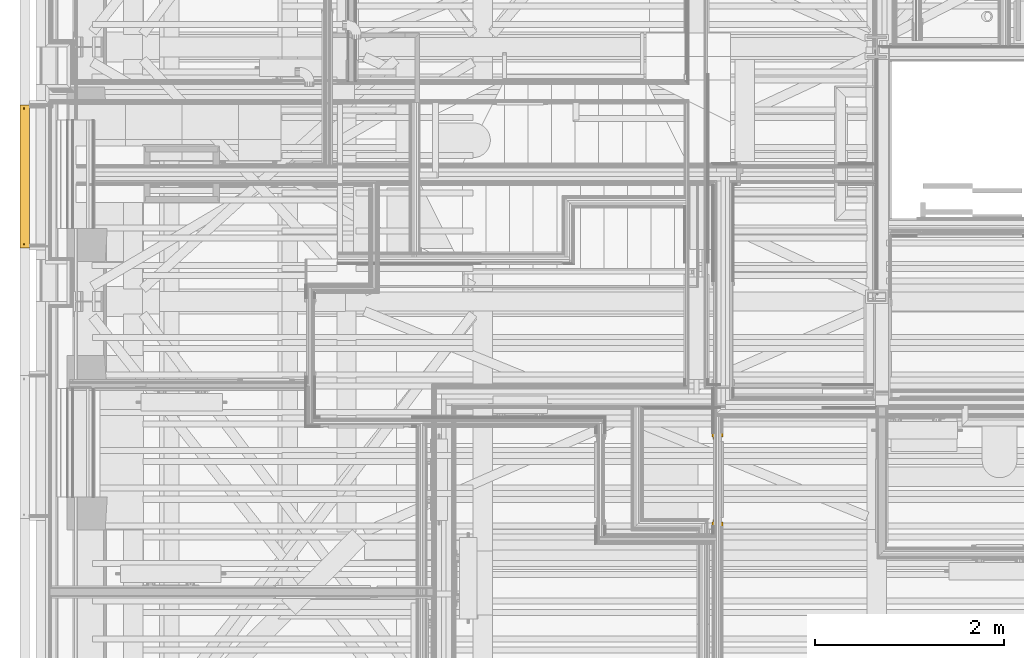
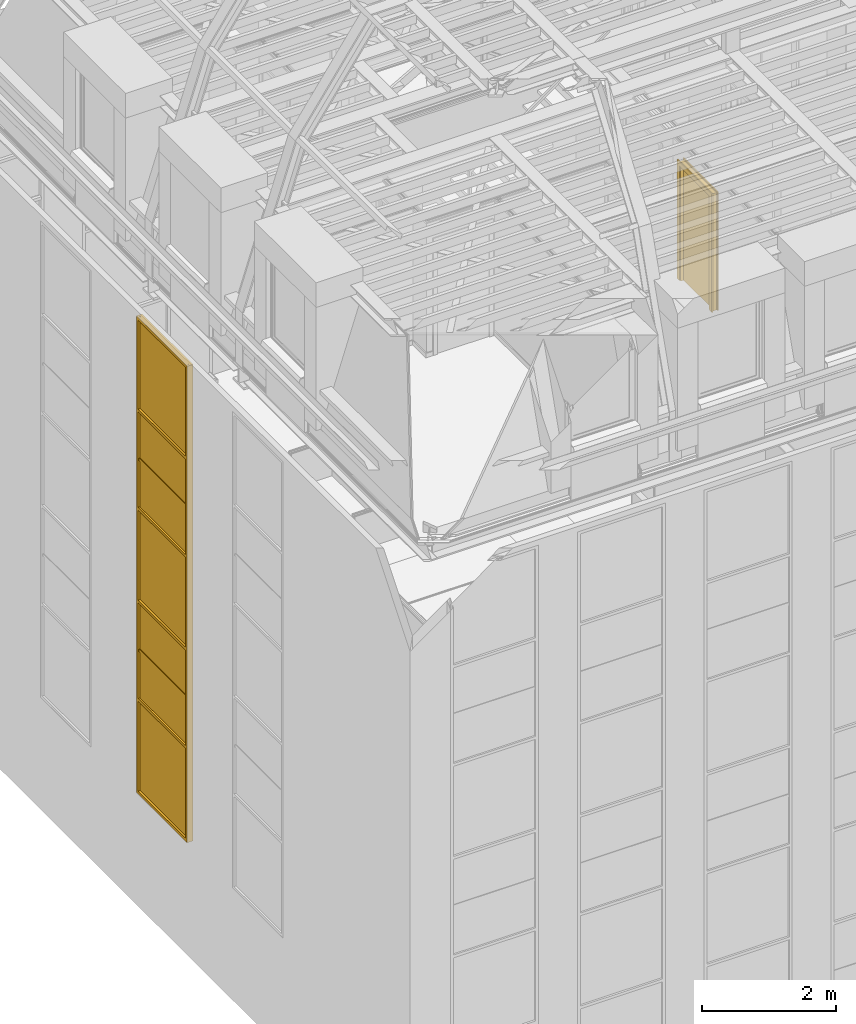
# One storey, part 112 of 183: 1 curtain wall, 1 door.
"""IFC2X3 building model written with IfcOpenShell, lengths in metres."""

from ifc_helpers import new_model, entity, si_unit, converted_unit, derived_unit, money_unit, direction, frame, origin_with_axes, place, context, subcontext, project, spatial, faceted_brep, material, type_object, element, save


model = new_model("IFC2X3")

# Units and contexts
model_context = context("Model", 3, precision=1e-05, world=origin_with_axes(), true_north=direction((0.0, 1.0)))
body_context = subcontext(model_context, "Body", "Model", "MODEL_VIEW", scale=1.0)
ifc_project = project(units=[si_unit("LENGTHUNIT", "METRE"), si_unit("AREAUNIT", "SQUARE_METRE"), si_unit("VOLUMEUNIT", "CUBIC_METRE"), si_unit("ABSORBEDDOSEUNIT", "GRAY"), si_unit("AMOUNTOFSUBSTANCEUNIT", "MOLE"), si_unit("DOSEEQUIVALENTUNIT", "SIEVERT"), si_unit("ELECTRICCAPACITANCEUNIT", "FARAD"), si_unit("ELECTRICCHARGEUNIT", "COULOMB"), si_unit("ELECTRICCONDUCTANCEUNIT", "SIEMENS"), si_unit("ELECTRICCURRENTUNIT", "AMPERE"), si_unit("ELECTRICRESISTANCEUNIT", "OHM"), si_unit("ELECTRICVOLTAGEUNIT", "VOLT"), si_unit("ENERGYUNIT", "JOULE"), si_unit("FORCEUNIT", "NEWTON"), si_unit("FREQUENCYUNIT", "HERTZ"), si_unit("ILLUMINANCEUNIT", "LUX"), si_unit("INDUCTANCEUNIT", "HENRY"), si_unit("LUMINOUSFLUXUNIT", "LUMEN"), si_unit("LUMINOUSINTENSITYUNIT", "CANDELA"), si_unit("MAGNETICFLUXDENSITYUNIT", "TESLA"), si_unit("MAGNETICFLUXUNIT", "WEBER"), si_unit("MASSUNIT", "GRAM"), converted_unit("PLANEANGLEUNIT", "degree", entity("IfcReal", 0.0174532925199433), si_unit("PLANEANGLEUNIT", "RADIAN"), dimensions=[0, 0, 0, 0, 0, 0, 0]), si_unit("POWERUNIT", "WATT"), si_unit("PRESSUREUNIT", "PASCAL"), si_unit("RADIOACTIVITYUNIT", "BECQUEREL"), si_unit("SOLIDANGLEUNIT", "STERADIAN"), si_unit("THERMODYNAMICTEMPERATUREUNIT", "KELVIN"), si_unit("TIMEUNIT", "SECOND"), derived_unit("ACCELERATIONUNIT", [(si_unit("LENGTHUNIT", "METRE"), 1), (si_unit("TIMEUNIT", "SECOND"), -2)]), derived_unit("ANGULARVELOCITYUNIT", [(converted_unit("PLANEANGLEUNIT", "degree", entity("IfcReal", 0.0174532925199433), si_unit("PLANEANGLEUNIT", "RADIAN"), dimensions=[0, 0, 0, 0, 0, 0, 0]), 1), (si_unit("TIMEUNIT", "SECOND"), -1)]), derived_unit("CURVATUREUNIT", [(converted_unit("PLANEANGLEUNIT", "degree", entity("IfcReal", 0.0174532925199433), si_unit("PLANEANGLEUNIT", "RADIAN"), dimensions=[0, 0, 0, 0, 0, 0, 0]), 1), (si_unit("LENGTHUNIT", "METRE"), -1)]), derived_unit("DYNAMICVISCOSITYUNIT", [(si_unit("PRESSUREUNIT", "PASCAL"), 1), (si_unit("TIMEUNIT", "SECOND"), 1)]), derived_unit("HEATFLUXDENSITYUNIT", [(si_unit("POWERUNIT", "WATT"), 1), (si_unit("LENGTHUNIT", "METRE"), -2)]), derived_unit("HEATINGVALUEUNIT", [(si_unit("ENERGYUNIT", "JOULE"), 1), (si_unit("MASSUNIT", "GRAM"), -1)]), derived_unit("INTEGERCOUNTRATEUNIT", [(si_unit("TIMEUNIT", "SECOND"), -1)]), derived_unit("IONCONCENTRATIONUNIT", [(si_unit("MASSUNIT", "GRAM"), 1), (si_unit("VOLUMEUNIT", "CUBIC_METRE"), -1)]), derived_unit("ISOTHERMALMOISTURECAPACITYUNIT", [(si_unit("VOLUMEUNIT", "CUBIC_METRE"), 1), (si_unit("MASSUNIT", "GRAM"), -1)]), derived_unit("KINEMATICVISCOSITYUNIT", [(si_unit("AREAUNIT", "SQUARE_METRE"), 1), (si_unit("TIMEUNIT", "SECOND"), -1)]), derived_unit("LINEARFORCEUNIT", [(si_unit("FORCEUNIT", "NEWTON"), 1), (si_unit("LENGTHUNIT", "METRE"), -1)]), derived_unit("LINEARMOMENTUNIT", [(si_unit("FORCEUNIT", "NEWTON"), 1), (si_unit("LENGTHUNIT", "METRE"), -1)]), derived_unit("LINEARSTIFFNESSUNIT", [(si_unit("FORCEUNIT", "NEWTON"), 1), (si_unit("LENGTHUNIT", "METRE"), -1)]), derived_unit("LINEARVELOCITYUNIT", [(si_unit("LENGTHUNIT", "METRE"), 1), (si_unit("TIMEUNIT", "SECOND"), -1)]), derived_unit("LUMINOUSINTENSITYDISTRIBUTIONUNIT", [(si_unit("LUMINOUSINTENSITYUNIT", "CANDELA"), 1), (si_unit("LUMINOUSFLUXUNIT", "LUMEN"), -1)]), derived_unit("MASSDENSITYUNIT", [(si_unit("MASSUNIT", "GRAM"), 1), (si_unit("VOLUMEUNIT", "CUBIC_METRE"), -1)]), derived_unit("MASSFLOWRATEUNIT", [(si_unit("MASSUNIT", "GRAM"), 1), (si_unit("TIMEUNIT", "SECOND"), -1)]), derived_unit("MASSPERLENGTHUNIT", [(si_unit("MASSUNIT", "GRAM"), 1), (si_unit("LENGTHUNIT", "METRE"), -1)]), derived_unit("MODULUSOFELASTICITYUNIT", [(si_unit("FORCEUNIT", "NEWTON"), 1), (si_unit("AREAUNIT", "SQUARE_METRE"), -1)]), derived_unit("MODULUSOFLINEARSUBGRADEREACTIONUNIT", [(si_unit("FORCEUNIT", "NEWTON"), 1), (si_unit("LENGTHUNIT", "METRE"), -2)]), derived_unit("MODULUSOFROTATIONALSUBGRADEREACTIONUNIT", [(si_unit("FORCEUNIT", "NEWTON"), 1), (si_unit("LENGTHUNIT", "METRE"), 1)]), derived_unit("MODULUSOFSUBGRADEREACTIONUNIT", [(si_unit("FORCEUNIT", "NEWTON"), 1), (si_unit("VOLUMEUNIT", "CUBIC_METRE"), -1)]), derived_unit("MOISTUREDIFFUSIVITYUNIT", [(si_unit("VOLUMEUNIT", "CUBIC_METRE"), 1), (si_unit("TIMEUNIT", "SECOND"), -1)]), derived_unit("MOLECULARWEIGHTUNIT", [(si_unit("MASSUNIT", "GRAM"), 1), (si_unit("AMOUNTOFSUBSTANCEUNIT", "MOLE"), -1)]), derived_unit("PLANARFORCEUNIT", [(si_unit("FORCEUNIT", "NEWTON"), 1), (si_unit("LENGTHUNIT", "METRE"), -2)]), derived_unit("ROTATIONALFREQUENCYUNIT", [(si_unit("TIMEUNIT", "SECOND"), -1)]), derived_unit("ROTATIONALMASSUNIT", [(si_unit("MASSUNIT", "GRAM"), 1), (si_unit("LENGTHUNIT", "METRE"), 2)]), derived_unit("ROTATIONALSTIFFNESSUNIT", [(si_unit("FORCEUNIT", "NEWTON"), 1), (si_unit("LENGTHUNIT", "METRE"), 1), (converted_unit("PLANEANGLEUNIT", "degree", entity("IfcReal", 0.0174532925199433), si_unit("PLANEANGLEUNIT", "RADIAN"), dimensions=[0, 0, 0, 0, 0, 0, 0]), -1)]), derived_unit("SECTIONAREAINTEGRALUNIT", [(si_unit("LENGTHUNIT", "METRE"), 5)]), derived_unit("SECTIONMODULUSUNIT", [(si_unit("LENGTHUNIT", "METRE"), 3)]), derived_unit("SHEARMODULUSUNIT", [(si_unit("FORCEUNIT", "NEWTON"), 1), (si_unit("AREAUNIT", "SQUARE_METRE"), -1)]), derived_unit("SOUNDPOWERUNIT", [(si_unit("ENERGYUNIT", "JOULE"), 1), (si_unit("TIMEUNIT", "SECOND"), -1)]), derived_unit("SPECIFICHEATCAPACITYUNIT", [(si_unit("FORCEUNIT", "NEWTON"), 1), (si_unit("MASSUNIT", "GRAM"), -1), (si_unit("THERMODYNAMICTEMPERATUREUNIT", "KELVIN"), -1)]), derived_unit("TEMPERATUREGRADIENTUNIT", [(si_unit("THERMODYNAMICTEMPERATUREUNIT", "KELVIN"), 1), (si_unit("LENGTHUNIT", "METRE"), -1)]), derived_unit("THERMALADMITTANCEUNIT", [(si_unit("POWERUNIT", "WATT"), 1), (si_unit("AREAUNIT", "SQUARE_METRE"), -1), (si_unit("THERMODYNAMICTEMPERATUREUNIT", "KELVIN"), -1)]), derived_unit("THERMALCONDUCTANCEUNIT", [(si_unit("POWERUNIT", "WATT"), 1), (si_unit("LENGTHUNIT", "METRE"), -1), (si_unit("THERMODYNAMICTEMPERATUREUNIT", "KELVIN"), -1)]), derived_unit("THERMALEXPANSIONCOEFFICIENTUNIT", [(si_unit("THERMODYNAMICTEMPERATUREUNIT", "KELVIN"), -1)]), derived_unit("THERMALRESISTANCEUNIT", [(si_unit("AREAUNIT", "SQUARE_METRE"), 1), (si_unit("POWERUNIT", "WATT"), -1)]), derived_unit("THERMALTRANSMITTANCEUNIT", [(si_unit("POWERUNIT", "WATT"), 1), (si_unit("AREAUNIT", "SQUARE_METRE"), -1), (si_unit("THERMODYNAMICTEMPERATUREUNIT", "KELVIN"), -1)]), derived_unit("TORQUEUNIT", [(si_unit("FORCEUNIT", "NEWTON"), 1), (si_unit("LENGTHUNIT", "METRE"), 1)]), derived_unit("VAPORPERMEABILITYUNIT", [(si_unit("MASSUNIT", "GRAM"), 1), (si_unit("TIMEUNIT", "SECOND"), -1)]), derived_unit("VOLUMETRICFLOWRATEUNIT", [(si_unit("VOLUMEUNIT", "CUBIC_METRE"), 1), (si_unit("TIMEUNIT", "SECOND"), -1)]), derived_unit("WARPINGCONSTANTUNIT", [(si_unit("LENGTHUNIT", "METRE"), 6)]), derived_unit("WARPINGMOMENTUNIT", [(si_unit("FORCEUNIT", "NEWTON"), 1), (si_unit("LENGTHUNIT", "METRE"), 2)]), money_unit("GBP")], contexts=[model_context])

# Site, building, storey
site_placement = place(None, origin_with_axes())
site = spatial("IfcSite", under=ifc_project, at=site_placement, Name="Site", CompositionType="ELEMENT")
building_placement = place(site_placement, origin_with_axes())
building = spatial("IfcBuilding", under=site, at=building_placement, Name="Building01", CompositionType="ELEMENT")
storey_placement = place(building_placement, frame((0.0, 0.0, 5.15), z_axis=(0.0, 0.0, 1.0), x_axis=(1.0, 0.0, 0.0)))
storey = spatial("IfcBuildingStorey", under=building, at=storey_placement, Name="1F", CompositionType="ELEMENT", Elevation=5.15)

# Curtain wall
ifc_material_1 = material(Name="A-CurtainWall_Frame")
curtain_wall_type = type_object("IfcCurtainWallType", Name="Pattern - Maximum Spacing", PredefinedType="NOTDEFINED")
curtain_wall_placement = place(storey_placement, frame((0.0, 0.0, -5.15), z_axis=(0.0, 0.0, 1.0), x_axis=(1.0, 0.0, 0.0)))
element("IfcCurtainWall", 1, at=curtain_wall_placement, inside=storey, type_object=curtain_wall_type, material=ifc_material_1, Name="14", ObjectType="Pattern - Maximum Spacing", context=body_context, shape_type="Brep", body=[
    faceted_brep([(0.047043, 8.15718, 7.729632), (0.037043, 8.15718, 7.729632), (0.037043, 6.69718, 7.729632), (0.047043, 6.69718, 7.729632), (0.047043, 8.15718, 6.045508), (0.037043, 8.15718, 6.045508), (0.047043, 6.69718, 6.045508), (0.037043, 6.69718, 6.045508)], [[[0, 1, 2, 3]], [[4, 5, 1, 0]], [[6, 7, 5, 4]], [[3, 2, 7, 6]], [[1, 5, 7, 2]], [[3, 6, 4, 0]]]),
    faceted_brep([(0.002043, 6.71718, 6.015508), (0.037043, 6.71718, 6.015508), (0.037043, 6.69718, 6.015508), (0.047043, 6.69718, 6.015508), (0.047043, 6.71718, 6.015508), (0.102043, 6.71718, 6.015508), (0.102043, 6.66718, 6.015508), (0.002043, 6.66718, 6.015508), (0.002043, 6.66718, 7.734632), (0.002043, 6.71718, 7.734632), (0.037043, 6.71718, 7.734632), (0.037043, 6.69718, 7.734632), (0.047043, 6.69718, 7.734632), (0.047043, 6.71718, 7.734632), (0.102043, 6.71718, 7.734632), (0.102043, 6.66718, 7.734632)], [[[0, 1, 2, 3, 4, 5, 6, 7]], [[7, 8, 9, 0]], [[0, 9, 10, 1]], [[1, 10, 11, 2]], [[2, 11, 12, 3]], [[3, 12, 13, 4]], [[4, 13, 14, 5]], [[5, 14, 15, 6]], [[6, 15, 8, 7]]]),
    faceted_brep([(0.002043, 8.13718, 6.065508), (0.037043, 8.13718, 6.065508), (0.037043, 8.13718, 6.045508), (0.047043, 8.13718, 6.045508), (0.047043, 8.13718, 6.065508), (0.102043, 8.13718, 6.065508), (0.102043, 8.13718, 6.015508), (0.002043, 8.13718, 6.015508), (0.002043, 6.71718, 6.015508), (0.002043, 6.71718, 6.065508), (0.037043, 6.71718, 6.065508), (0.037043, 6.71718, 6.045508), (0.047043, 6.71718, 6.045508), (0.047043, 6.71718, 6.065508), (0.102043, 6.71718, 6.065508), (0.102043, 6.71718, 6.015508)], [[[0, 1, 2, 3, 4, 5, 6, 7]], [[7, 8, 9, 0]], [[0, 9, 10, 1]], [[1, 10, 11, 2]], [[2, 11, 12, 3]], [[3, 12, 13, 4]], [[4, 13, 14, 5]], [[5, 14, 15, 6]], [[6, 15, 8, 7]], [[8, 15, 14, 13, 12, 11, 10, 9]]]),
    faceted_brep([(0.037043, 8.15718, 6.015508), (0.037043, 8.15718, 7.734632), (0.037043, 8.13718, 7.734632), (0.037043, 8.13718, 6.015508), (0.047043, 8.15718, 6.015508), (0.047043, 8.15718, 7.734632), (0.047043, 8.13718, 6.015508), (0.047043, 8.13718, 7.734632), (0.102043, 8.13718, 6.015508), (0.102043, 8.13718, 7.734632), (0.102043, 8.18718, 6.015508), (0.102043, 8.18718, 7.734632), (0.002043, 8.18718, 6.015508), (0.002043, 8.18718, 7.734632), (0.002043, 8.13718, 6.015508), (0.002043, 8.13718, 7.734632)], [[[0, 1, 2, 3]], [[4, 5, 1, 0]], [[6, 7, 5, 4]], [[8, 9, 7, 6]], [[10, 11, 9, 8]], [[12, 13, 11, 10]], [[14, 15, 13, 12]], [[3, 2, 15, 14]], [[14, 12, 10, 8, 6, 4, 0, 3]]]),
    faceted_brep([(0.047043, 6.71718, 7.739632), (0.037043, 6.71718, 7.739632), (0.037043, 6.71718, 7.759632), (0.002043, 6.71718, 7.759632), (0.002043, 6.71718, 7.709632), (0.037043, 6.71718, 7.709632), (0.037043, 6.71718, 7.729632), (0.047043, 6.71718, 7.729632), (0.047043, 6.71718, 7.709632), (0.102043, 6.71718, 7.709632), (0.102043, 6.71718, 7.759632), (0.047043, 6.71718, 7.759632), (0.047043, 8.13718, 7.759632), (0.047043, 8.13718, 7.739632), (0.037043, 8.13718, 7.739632), (0.037043, 8.13718, 7.759632), (0.002043, 8.13718, 7.759632), (0.002043, 8.13718, 7.709632), (0.037043, 8.13718, 7.709632), (0.047043, 8.13718, 7.729632), (0.047043, 8.13718, 7.709632), (0.037043, 8.13718, 7.729632), (0.102043, 8.13718, 7.759632), (0.102043, 8.13718, 7.709632)], [[[0, 1, 2, 3, 4, 5, 6, 7, 8, 9, 10, 11]], [[11, 12, 13, 0]], [[0, 13, 14, 1]], [[1, 14, 15, 2]], [[2, 15, 16, 3]], [[3, 16, 17, 4]], [[4, 17, 18, 5]], [[7, 19, 20, 8]], [[6, 21, 19, 7]], [[5, 18, 21, 6]], [[10, 22, 12, 11]], [[9, 23, 22, 10]], [[8, 20, 23, 9]], [[20, 19, 21, 18, 17, 16, 15, 14, 13, 12, 22, 23]]]),
    faceted_brep([(0.052043, 8.15718, 8.626522), (0.032043, 8.15718, 8.626522), (0.032043, 6.69718, 8.626522), (0.052043, 6.69718, 8.626522), (0.052043, 8.15718, 7.739632), (0.032043, 8.15718, 7.739632), (0.052043, 6.69718, 7.739632), (0.032043, 6.69718, 7.739632)], [[[0, 1, 2, 3]], [[4, 5, 1, 0]], [[6, 7, 5, 4]], [[3, 2, 7, 6]], [[1, 5, 7, 2]], [[3, 6, 4, 0]]]),
    faceted_brep([(0.102043, 6.66718, 8.631522), (0.102043, 6.66718, 7.734632), (0.102043, 6.71718, 7.734632), (0.102043, 6.71718, 8.631522), (0.002043, 6.66718, 8.631522), (0.002043, 6.66718, 7.734632), (0.002043, 6.71718, 8.631522), (0.002043, 6.71718, 7.734632), (0.037043, 6.71718, 8.631522), (0.037043, 6.71718, 7.734632), (0.037043, 6.69718, 8.631522), (0.037043, 6.69718, 7.734632), (0.047043, 6.69718, 8.631522), (0.047043, 6.69718, 7.734632), (0.047043, 6.71718, 8.631522), (0.047043, 6.71718, 7.734632)], [[[0, 1, 2, 3]], [[4, 5, 1, 0]], [[6, 7, 5, 4]], [[8, 9, 7, 6]], [[10, 11, 9, 8]], [[12, 13, 11, 10]], [[14, 15, 13, 12]], [[3, 2, 15, 14]]]),
    faceted_brep([(0.037043, 8.15718, 7.734632), (0.037043, 8.15718, 8.631522), (0.037043, 8.13718, 8.631522), (0.037043, 8.13718, 7.734632), (0.047043, 8.15718, 7.734632), (0.047043, 8.15718, 8.631522), (0.047043, 8.13718, 7.734632), (0.047043, 8.13718, 8.631522), (0.102043, 8.13718, 7.734632), (0.102043, 8.13718, 8.631522), (0.102043, 8.18718, 7.734632), (0.102043, 8.18718, 8.631522), (0.002043, 8.18718, 7.734632), (0.002043, 8.18718, 8.631522), (0.002043, 8.13718, 7.734632), (0.002043, 8.13718, 8.631522)], [[[0, 1, 2, 3]], [[4, 5, 1, 0]], [[6, 7, 5, 4]], [[8, 9, 7, 6]], [[10, 11, 9, 8]], [[12, 13, 11, 10]], [[14, 15, 13, 12]], [[3, 2, 15, 14]]]),
    faceted_brep([(0.064543, 6.71718, 8.636522), (0.054543, 6.71718, 8.636522), (0.054543, 6.71718, 8.656522), (0.019543, 6.71718, 8.656522), (0.019543, 6.71718, 8.606522), (0.054543, 6.71718, 8.606522), (0.054543, 6.71718, 8.626522), (0.064543, 6.71718, 8.626522), (0.064543, 6.71718, 8.606522), (0.119543, 6.71718, 8.606522), (0.119543, 6.71718, 8.656522), (0.064543, 6.71718, 8.656522), (0.064543, 8.13718, 8.656522), (0.064543, 8.13718, 8.636522), (0.054543, 8.13718, 8.636522), (0.054543, 8.13718, 8.656522), (0.019543, 8.13718, 8.656522), (0.019543, 8.13718, 8.606522), (0.054543, 8.13718, 8.606522), (0.064543, 8.13718, 8.626522), (0.064543, 8.13718, 8.606522), (0.054543, 8.13718, 8.626522), (0.119543, 8.13718, 8.656522), (0.119543, 8.13718, 8.606522)], [[[0, 1, 2, 3, 4, 5, 6, 7, 8, 9, 10, 11]], [[11, 12, 13, 0]], [[0, 13, 14, 1]], [[1, 14, 15, 2]], [[2, 15, 16, 3]], [[3, 16, 17, 4]], [[4, 17, 18, 5]], [[7, 19, 20, 8]], [[6, 21, 19, 7]], [[5, 18, 21, 6]], [[10, 22, 12, 11]], [[9, 23, 22, 10]], [[8, 20, 23, 9]], [[20, 19, 21, 18, 17, 16, 15, 14, 13, 12, 22, 23]]]),
    faceted_brep([(0.052043, 8.15718, 9.523411), (0.032043, 8.15718, 9.523411), (0.032043, 6.69718, 9.523411), (0.052043, 6.69718, 9.523411), (0.052043, 8.15718, 8.636522), (0.032043, 8.15718, 8.636522), (0.052043, 6.69718, 8.636522), (0.032043, 6.69718, 8.636522)], [[[0, 1, 2, 3]], [[4, 5, 1, 0]], [[6, 7, 5, 4]], [[3, 2, 7, 6]], [[1, 5, 7, 2]], [[3, 6, 4, 0]]]),
    faceted_brep([(0.102043, 6.66718, 9.528411), (0.102043, 6.66718, 8.631522), (0.102043, 6.71718, 8.631522), (0.102043, 6.71718, 9.528411), (0.002043, 6.66718, 9.528411), (0.002043, 6.66718, 8.631522), (0.002043, 6.71718, 9.528411), (0.002043, 6.71718, 8.631522), (0.037043, 6.71718, 9.528411), (0.037043, 6.71718, 8.631522), (0.037043, 6.69718, 9.528411), (0.037043, 6.69718, 8.631522), (0.047043, 6.69718, 9.528411), (0.047043, 6.69718, 8.631522), (0.047043, 6.71718, 9.528411), (0.047043, 6.71718, 8.631522)], [[[0, 1, 2, 3]], [[4, 5, 1, 0]], [[6, 7, 5, 4]], [[8, 9, 7, 6]], [[10, 11, 9, 8]], [[12, 13, 11, 10]], [[14, 15, 13, 12]], [[3, 2, 15, 14]]]),
    faceted_brep([(0.037043, 8.15718, 8.631522), (0.037043, 8.15718, 9.528411), (0.037043, 8.13718, 9.528411), (0.037043, 8.13718, 8.631522), (0.047043, 8.15718, 8.631522), (0.047043, 8.15718, 9.528411), (0.047043, 8.13718, 8.631522), (0.047043, 8.13718, 9.528411), (0.102043, 8.13718, 8.631522), (0.102043, 8.13718, 9.528411), (0.102043, 8.18718, 8.631522), (0.102043, 8.18718, 9.528411), (0.002043, 8.18718, 8.631522), (0.002043, 8.18718, 9.528411), (0.002043, 8.13718, 8.631522), (0.002043, 8.13718, 9.528411)], [[[0, 1, 2, 3]], [[4, 5, 1, 0]], [[6, 7, 5, 4]], [[8, 9, 7, 6]], [[10, 11, 9, 8]], [[12, 13, 11, 10]], [[14, 15, 13, 12]], [[3, 2, 15, 14]]]),
    faceted_brep([(0.047043, 6.71718, 9.533411), (0.037043, 6.71718, 9.533411), (0.037043, 6.71718, 9.553411), (0.002043, 6.71718, 9.553411), (0.002043, 6.71718, 9.503411), (0.037043, 6.71718, 9.503411), (0.037043, 6.71718, 9.523411), (0.047043, 6.71718, 9.523411), (0.047043, 6.71718, 9.503411), (0.102043, 6.71718, 9.503411), (0.102043, 6.71718, 9.553411), (0.047043, 6.71718, 9.553411), (0.047043, 8.13718, 9.553411), (0.047043, 8.13718, 9.533411), (0.037043, 8.13718, 9.533411), (0.037043, 8.13718, 9.553411), (0.002043, 8.13718, 9.553411), (0.002043, 8.13718, 9.503411), (0.037043, 8.13718, 9.503411), (0.047043, 8.13718, 9.523411), (0.047043, 8.13718, 9.503411), (0.037043, 8.13718, 9.523411), (0.102043, 8.13718, 9.553411), (0.102043, 8.13718, 9.503411)], [[[0, 1, 2, 3, 4, 5, 6, 7, 8, 9, 10, 11]], [[11, 12, 13, 0]], [[0, 13, 14, 1]], [[1, 14, 15, 2]], [[2, 15, 16, 3]], [[3, 16, 17, 4]], [[4, 17, 18, 5]], [[7, 19, 20, 8]], [[6, 21, 19, 7]], [[5, 18, 21, 6]], [[10, 22, 12, 11]], [[9, 23, 22, 10]], [[8, 20, 23, 9]], [[20, 19, 21, 18, 17, 16, 15, 14, 13, 12, 22, 23]]]),
    faceted_brep([(0.047043, 8.15718, 11.217536), (0.037043, 8.15718, 11.217536), (0.037043, 6.69718, 11.217536), (0.047043, 6.69718, 11.217536), (0.047043, 8.15718, 9.533411), (0.037043, 8.15718, 9.533411), (0.047043, 6.69718, 9.533411), (0.037043, 6.69718, 9.533411)], [[[0, 1, 2, 3]], [[4, 5, 1, 0]], [[6, 7, 5, 4]], [[3, 2, 7, 6]], [[1, 5, 7, 2]], [[3, 6, 4, 0]]]),
    faceted_brep([(0.102043, 6.66718, 11.222536), (0.102043, 6.66718, 9.528411), (0.102043, 6.71718, 9.528411), (0.102043, 6.71718, 11.222536), (0.002043, 6.66718, 11.222536), (0.002043, 6.66718, 9.528411), (0.002043, 6.71718, 11.222536), (0.002043, 6.71718, 9.528411), (0.037043, 6.71718, 11.222536), (0.037043, 6.71718, 9.528411), (0.037043, 6.69718, 11.222536), (0.037043, 6.69718, 9.528411), (0.047043, 6.69718, 11.222536), (0.047043, 6.69718, 9.528411), (0.047043, 6.71718, 11.222536), (0.047043, 6.71718, 9.528411)], [[[0, 1, 2, 3]], [[4, 5, 1, 0]], [[6, 7, 5, 4]], [[8, 9, 7, 6]], [[10, 11, 9, 8]], [[12, 13, 11, 10]], [[14, 15, 13, 12]], [[3, 2, 15, 14]]]),
    faceted_brep([(0.037043, 8.15718, 9.528411), (0.037043, 8.15718, 11.222536), (0.037043, 8.13718, 11.222536), (0.037043, 8.13718, 9.528411), (0.047043, 8.15718, 9.528411), (0.047043, 8.15718, 11.222536), (0.047043, 8.13718, 9.528411), (0.047043, 8.13718, 11.222536), (0.102043, 8.13718, 9.528411), (0.102043, 8.13718, 11.222536), (0.102043, 8.18718, 9.528411), (0.102043, 8.18718, 11.222536), (0.002043, 8.18718, 9.528411), (0.002043, 8.18718, 11.222536), (0.002043, 8.13718, 9.528411), (0.002043, 8.13718, 11.222536)], [[[0, 1, 2, 3]], [[4, 5, 1, 0]], [[6, 7, 5, 4]], [[8, 9, 7, 6]], [[10, 11, 9, 8]], [[12, 13, 11, 10]], [[14, 15, 13, 12]], [[3, 2, 15, 14]]]),
    faceted_brep([(0.047043, 6.71718, 11.227536), (0.037043, 6.71718, 11.227536), (0.037043, 6.71718, 11.247536), (0.002043, 6.71718, 11.247536), (0.002043, 6.71718, 11.197536), (0.037043, 6.71718, 11.197536), (0.037043, 6.71718, 11.217536), (0.047043, 6.71718, 11.217536), (0.047043, 6.71718, 11.197536), (0.102043, 6.71718, 11.197536), (0.102043, 6.71718, 11.247536), (0.047043, 6.71718, 11.247536), (0.047043, 8.13718, 11.247536), (0.047043, 8.13718, 11.227536), (0.037043, 8.13718, 11.227536), (0.037043, 8.13718, 11.247536), (0.002043, 8.13718, 11.247536), (0.002043, 8.13718, 11.197536), (0.037043, 8.13718, 11.197536), (0.047043, 8.13718, 11.217536), (0.047043, 8.13718, 11.197536), (0.037043, 8.13718, 11.217536), (0.102043, 8.13718, 11.247536), (0.102043, 8.13718, 11.197536)], [[[0, 1, 2, 3, 4, 5, 6, 7, 8, 9, 10, 11]], [[11, 12, 13, 0]], [[0, 13, 14, 1]], [[1, 14, 15, 2]], [[2, 15, 16, 3]], [[3, 16, 17, 4]], [[4, 17, 18, 5]], [[7, 19, 20, 8]], [[6, 21, 19, 7]], [[5, 18, 21, 6]], [[10, 22, 12, 11]], [[9, 23, 22, 10]], [[8, 20, 23, 9]], [[20, 19, 21, 18, 17, 16, 15, 14, 13, 12, 22, 23]]]),
    faceted_brep([(0.052043, 8.15718, 12.114425), (0.032043, 8.15718, 12.114425), (0.032043, 6.69718, 12.114425), (0.052043, 6.69718, 12.114425), (0.052043, 8.15718, 11.227536), (0.032043, 8.15718, 11.227536), (0.052043, 6.69718, 11.227536), (0.032043, 6.69718, 11.227536)], [[[0, 1, 2, 3]], [[4, 5, 1, 0]], [[6, 7, 5, 4]], [[3, 2, 7, 6]], [[1, 5, 7, 2]], [[3, 6, 4, 0]]]),
    faceted_brep([(0.102043, 6.66718, 12.119425), (0.102043, 6.66718, 11.222536), (0.102043, 6.71718, 11.222536), (0.102043, 6.71718, 12.119425), (0.002043, 6.66718, 12.119425), (0.002043, 6.66718, 11.222536), (0.002043, 6.71718, 12.119425), (0.002043, 6.71718, 11.222536), (0.037043, 6.71718, 12.119425), (0.037043, 6.71718, 11.222536), (0.037043, 6.69718, 12.119425), (0.037043, 6.69718, 11.222536), (0.047043, 6.69718, 12.119425), (0.047043, 6.69718, 11.222536), (0.047043, 6.71718, 12.119425), (0.047043, 6.71718, 11.222536)], [[[0, 1, 2, 3]], [[4, 5, 1, 0]], [[6, 7, 5, 4]], [[8, 9, 7, 6]], [[10, 11, 9, 8]], [[12, 13, 11, 10]], [[14, 15, 13, 12]], [[3, 2, 15, 14]]]),
    faceted_brep([(0.037043, 8.15718, 11.222536), (0.037043, 8.15718, 12.119425), (0.037043, 8.13718, 12.119425), (0.037043, 8.13718, 11.222536), (0.047043, 8.15718, 11.222536), (0.047043, 8.15718, 12.119425), (0.047043, 8.13718, 11.222536), (0.047043, 8.13718, 12.119425), (0.102043, 8.13718, 11.222536), (0.102043, 8.13718, 12.119425), (0.102043, 8.18718, 11.222536), (0.102043, 8.18718, 12.119425), (0.002043, 8.18718, 11.222536), (0.002043, 8.18718, 12.119425), (0.002043, 8.13718, 11.222536), (0.002043, 8.13718, 12.119425)], [[[0, 1, 2, 3]], [[4, 5, 1, 0]], [[6, 7, 5, 4]], [[8, 9, 7, 6]], [[10, 11, 9, 8]], [[12, 13, 11, 10]], [[14, 15, 13, 12]], [[3, 2, 15, 14]]]),
    faceted_brep([(0.064543, 6.71718, 12.124425), (0.054543, 6.71718, 12.124425), (0.054543, 6.71718, 12.144425), (0.019543, 6.71718, 12.144425), (0.019543, 6.71718, 12.094425), (0.054543, 6.71718, 12.094425), (0.054543, 6.71718, 12.114425), (0.064543, 6.71718, 12.114425), (0.064543, 6.71718, 12.094425), (0.119543, 6.71718, 12.094425), (0.119543, 6.71718, 12.144425), (0.064543, 6.71718, 12.144425), (0.064543, 8.13718, 12.144425), (0.064543, 8.13718, 12.124425), (0.054543, 8.13718, 12.124425), (0.054543, 8.13718, 12.144425), (0.019543, 8.13718, 12.144425), (0.019543, 8.13718, 12.094425), (0.054543, 8.13718, 12.094425), (0.064543, 8.13718, 12.114425), (0.064543, 8.13718, 12.094425), (0.054543, 8.13718, 12.114425), (0.119543, 8.13718, 12.144425), (0.119543, 8.13718, 12.094425)], [[[0, 1, 2, 3, 4, 5, 6, 7, 8, 9, 10, 11]], [[11, 12, 13, 0]], [[0, 13, 14, 1]], [[1, 14, 15, 2]], [[2, 15, 16, 3]], [[3, 16, 17, 4]], [[4, 17, 18, 5]], [[7, 19, 20, 8]], [[6, 21, 19, 7]], [[5, 18, 21, 6]], [[10, 22, 12, 11]], [[9, 23, 22, 10]], [[8, 20, 23, 9]], [[20, 19, 21, 18, 17, 16, 15, 14, 13, 12, 22, 23]]]),
    faceted_brep([(0.047043, 6.69718, 13.021314), (0.037043, 6.69718, 13.021314), (0.037043, 8.15718, 13.021314), (0.047043, 8.15718, 13.021314), (0.047043, 6.69718, 14.685508), (0.037043, 6.69718, 14.685508), (0.047043, 8.15718, 14.685508), (0.037043, 8.15718, 14.685508)], [[[0, 1, 2, 3]], [[4, 5, 1, 0]], [[6, 7, 5, 4]], [[3, 2, 7, 6]], [[1, 5, 7, 2]], [[3, 6, 4, 0]]]),
    faceted_brep([(0.037043, 8.15718, 14.715508), (0.047043, 8.15718, 14.715508), (0.047043, 8.13718, 14.715508), (0.102043, 8.13718, 14.715508), (0.102043, 8.18718, 14.715508), (0.002043, 8.18718, 14.715508), (0.002043, 8.13718, 14.715508), (0.037043, 8.13718, 14.715508), (0.037043, 8.13718, 13.016314), (0.037043, 8.15718, 13.016314), (0.047043, 8.15718, 13.016314), (0.047043, 8.13718, 13.016314), (0.102043, 8.13718, 13.016314), (0.102043, 8.18718, 13.016314), (0.002043, 8.18718, 13.016314), (0.002043, 8.13718, 13.016314)], [[[0, 1, 2, 3, 4, 5, 6, 7]], [[7, 8, 9, 0]], [[0, 9, 10, 1]], [[1, 10, 11, 2]], [[2, 11, 12, 3]], [[3, 12, 13, 4]], [[4, 13, 14, 5]], [[5, 14, 15, 6]], [[6, 15, 8, 7]]]),
    faceted_brep([(0.037043, 6.71718, 14.685508), (0.047043, 6.71718, 14.685508), (0.047043, 6.71718, 14.665508), (0.102043, 6.71718, 14.665508), (0.102043, 6.71718, 14.715508), (0.002043, 6.71718, 14.715508), (0.002043, 6.71718, 14.665508), (0.037043, 6.71718, 14.665508), (0.037043, 8.13718, 14.665508), (0.037043, 8.13718, 14.685508), (0.047043, 8.13718, 14.685508), (0.047043, 8.13718, 14.665508), (0.102043, 8.13718, 14.665508), (0.102043, 8.13718, 14.715508), (0.002043, 8.13718, 14.715508), (0.002043, 8.13718, 14.665508)], [[[0, 1, 2, 3, 4, 5, 6, 7]], [[7, 8, 9, 0]], [[0, 9, 10, 1]], [[1, 10, 11, 2]], [[2, 11, 12, 3]], [[3, 12, 13, 4]], [[4, 13, 14, 5]], [[5, 14, 15, 6]], [[6, 15, 8, 7]], [[8, 15, 14, 13, 12, 11, 10, 9]]]),
    faceted_brep([(0.002043, 6.71718, 14.715508), (0.002043, 6.71718, 13.016314), (0.002043, 6.66718, 13.016314), (0.002043, 6.66718, 14.715508), (0.037043, 6.71718, 14.715508), (0.037043, 6.71718, 13.016314), (0.037043, 6.69718, 14.715508), (0.037043, 6.69718, 13.016314), (0.047043, 6.69718, 14.715508), (0.047043, 6.69718, 13.016314), (0.047043, 6.71718, 14.715508), (0.047043, 6.71718, 13.016314), (0.102043, 6.71718, 14.715508), (0.102043, 6.71718, 13.016314), (0.102043, 6.66718, 14.715508), (0.102043, 6.66718, 13.016314)], [[[0, 1, 2, 3]], [[4, 5, 1, 0]], [[6, 7, 5, 4]], [[8, 9, 7, 6]], [[10, 11, 9, 8]], [[12, 13, 11, 10]], [[14, 15, 13, 12]], [[3, 2, 15, 14]], [[14, 12, 10, 8, 6, 4, 0, 3]]]),
    faceted_brep([(0.037043, 8.13718, 13.021314), (0.047043, 8.13718, 13.021314), (0.047043, 8.13718, 13.041314), (0.102043, 8.13718, 13.041314), (0.102043, 8.13718, 12.991314), (0.047043, 8.13718, 12.991314), (0.047043, 8.13718, 13.011314), (0.037043, 8.13718, 13.011314), (0.037043, 8.13718, 12.991314), (0.002043, 8.13718, 12.991314), (0.002043, 8.13718, 13.041314), (0.037043, 8.13718, 13.041314), (0.037043, 6.71718, 13.041314), (0.037043, 6.71718, 13.021314), (0.047043, 6.71718, 13.021314), (0.047043, 6.71718, 13.041314), (0.102043, 6.71718, 13.041314), (0.102043, 6.71718, 12.991314), (0.047043, 6.71718, 12.991314), (0.037043, 6.71718, 13.011314), (0.037043, 6.71718, 12.991314), (0.047043, 6.71718, 13.011314), (0.002043, 6.71718, 13.041314), (0.002043, 6.71718, 12.991314)], [[[0, 1, 2, 3, 4, 5, 6, 7, 8, 9, 10, 11]], [[11, 12, 13, 0]], [[0, 13, 14, 1]], [[1, 14, 15, 2]], [[2, 15, 16, 3]], [[3, 16, 17, 4]], [[4, 17, 18, 5]], [[7, 19, 20, 8]], [[6, 21, 19, 7]], [[5, 18, 21, 6]], [[10, 22, 12, 11]], [[9, 23, 22, 10]], [[8, 20, 23, 9]], [[20, 19, 21, 18, 17, 16, 15, 14, 13, 12, 22, 23]]]),
    faceted_brep([(0.052043, 8.15718, 13.011314), (0.032043, 8.15718, 13.011314), (0.032043, 6.69718, 13.011314), (0.052043, 6.69718, 13.011314), (0.052043, 8.15718, 12.124425), (0.032043, 8.15718, 12.124425), (0.052043, 6.69718, 12.124425), (0.032043, 6.69718, 12.124425)], [[[0, 1, 2, 3]], [[4, 5, 1, 0]], [[6, 7, 5, 4]], [[3, 2, 7, 6]], [[1, 5, 7, 2]], [[3, 6, 4, 0]]]),
    faceted_brep([(0.102043, 6.66718, 13.016314), (0.102043, 6.66718, 12.119425), (0.102043, 6.71718, 12.119425), (0.102043, 6.71718, 13.016314), (0.002043, 6.66718, 13.016314), (0.002043, 6.66718, 12.119425), (0.002043, 6.71718, 13.016314), (0.002043, 6.71718, 12.119425), (0.037043, 6.71718, 13.016314), (0.037043, 6.71718, 12.119425), (0.037043, 6.69718, 13.016314), (0.037043, 6.69718, 12.119425), (0.047043, 6.69718, 13.016314), (0.047043, 6.69718, 12.119425), (0.047043, 6.71718, 13.016314), (0.047043, 6.71718, 12.119425)], [[[0, 1, 2, 3]], [[4, 5, 1, 0]], [[6, 7, 5, 4]], [[8, 9, 7, 6]], [[10, 11, 9, 8]], [[12, 13, 11, 10]], [[14, 15, 13, 12]], [[3, 2, 15, 14]]]),
    faceted_brep([(0.037043, 8.15718, 12.119425), (0.037043, 8.15718, 13.016314), (0.037043, 8.13718, 13.016314), (0.037043, 8.13718, 12.119425), (0.047043, 8.15718, 12.119425), (0.047043, 8.15718, 13.016314), (0.047043, 8.13718, 12.119425), (0.047043, 8.13718, 13.016314), (0.102043, 8.13718, 12.119425), (0.102043, 8.13718, 13.016314), (0.102043, 8.18718, 12.119425), (0.102043, 8.18718, 13.016314), (0.002043, 8.18718, 12.119425), (0.002043, 8.18718, 13.016314), (0.002043, 8.13718, 12.119425), (0.002043, 8.13718, 13.016314)], [[[0, 1, 2, 3]], [[4, 5, 1, 0]], [[6, 7, 5, 4]], [[8, 9, 7, 6]], [[10, 11, 9, 8]], [[12, 13, 11, 10]], [[14, 15, 13, 12]], [[3, 2, 15, 14]]]),
])

# Space
space_placement = place(storey_placement, frame((12.175, 4.189428, 9.81), z_axis=(0.0, 0.0, 1.0), x_axis=(0.0, 1.0, 0.0)))
space = spatial("IfcSpace", under=storey, at=space_placement, Name="25", CompositionType="ELEMENT", InteriorOrExteriorSpace="NOTDEFINED")

# Door
ifc_material_2 = material(Name="A_BSUK_Doors")
door_style = type_object("IfcDoorStyle", Name="A-Doors-SingleFlush", ConstructionType="USERDEFINED", OperationType="SINGLE_SWING_LEFT", ParameterTakesPrecedence=False, Sizeable=False)
door_placement = place(storey_placement, frame((7.44, 4.659939, 9.78), z_axis=(0.0, 0.0, 1.0), x_axis=(0.0, -1.0, 0.0)))
element("IfcDoor", 2, at=door_placement, inside=space, type_object=door_style, material=ifc_material_2, Name="4.22", ObjectType="A-Doors-SingleFlush", OverallHeight=2.16900000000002, OverallWidth=1.03800000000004, context=body_context, shape_type="Brep", body=[
    faceted_brep([(0.0, -0.099, 2.1), (0.9, -0.099, 2.1), (0.9, -0.099, 0.0), (0.969, -0.099, 0.0), (0.969, -0.099, 2.169), (-0.069, -0.099, 2.169), (-0.069, -0.099, 0.0), (0.0, -0.099, 0.0), (0.969, -0.08, 2.169), (0.969, -0.08, 0.0), (-0.069, -0.08, 0.0), (-0.069, -0.08, 2.169), (-0.042, -0.08, 0.0), (-0.042, 0.0, 0.0), (-0.069, 0.0, 0.0), (-0.069, 0.019, 0.0), (0.0, 0.019, 0.0), (0.0, 0.019, 2.1), (0.9, 0.019, 2.1), (-0.069, 0.019, 2.169), (0.969, 0.019, 2.169), (0.969, 0.019, 0.0), (0.9, 0.019, 0.0), (-0.069, 0.0, 2.169), (-0.042, 0.0, 2.142), (-0.042, -0.08, 2.142), (0.942, 0.0, 2.142), (0.942, -0.08, 2.142), (0.942, -0.08, 0.0), (0.942, 0.0, 0.0), (0.969, 0.0, 0.0), (0.969, 0.0, 2.169)], [[[0, 1, 2, 3, 4, 5, 6, 7]], [[8, 4, 3, 9]], [[10, 6, 5, 11]], [[11, 5, 4, 8]], [[7, 6, 10, 12, 13, 14, 15, 16]], [[7, 16, 17, 0]], [[0, 17, 18, 1]], [[17, 16, 15, 19, 20, 21, 22, 18]], [[1, 18, 22, 2]], [[14, 23, 19, 15]], [[24, 13, 12, 25]], [[26, 24, 25, 27]], [[11, 8, 9, 28, 27, 25, 12, 10]], [[27, 28, 29, 26]], [[26, 29, 30, 31, 23, 14, 13, 24]], [[22, 21, 30, 29, 28, 9, 3, 2]], [[30, 21, 20, 31]], [[31, 20, 19, 23]]]),
    faceted_brep([(0.9, -0.09, 0.0), (0.9, -0.04, 0.0), (0.9, -0.04, 2.1), (0.9, -0.09, 2.1), (0.025, -0.09, 2.075), (0.875, -0.09, 2.075), (0.875, -0.09, 0.0), (0.0, -0.09, 2.1), (0.0, -0.09, 0.0), (0.025, -0.09, 0.0), (0.0, -0.04, 0.0), (0.025, -0.04, 0.0), (0.0, -0.04, 2.1), (0.025, -0.04, 2.075), (0.875, -0.04, 0.0), (0.875, -0.04, 2.075)], [[[0, 1, 2, 3]], [[4, 5, 6, 0, 3, 7, 8, 9]], [[9, 8, 10, 11]], [[3, 2, 12, 7]], [[7, 12, 10, 8]], [[13, 11, 10, 12, 2, 1, 14, 15]], [[5, 15, 14, 6]], [[14, 1, 0, 6]], [[9, 11, 13, 4]], [[4, 13, 15, 5]]]),
    faceted_brep([(0.0, -0.04, 2.1), (0.0, 0.0, 2.1), (0.0, 0.0, 0.0), (0.0, -0.04, 0.0), (0.9, -0.04, 0.0), (0.9, 0.0, 0.0), (0.9, 0.0, 2.1), (0.9, -0.04, 2.1)], [[[0, 1, 2, 3]], [[4, 5, 6, 7]], [[3, 2, 5, 4]], [[3, 4, 7, 0]], [[7, 6, 1, 0]], [[1, 6, 5, 2]]]),
])

save(model, "model.ifc")
